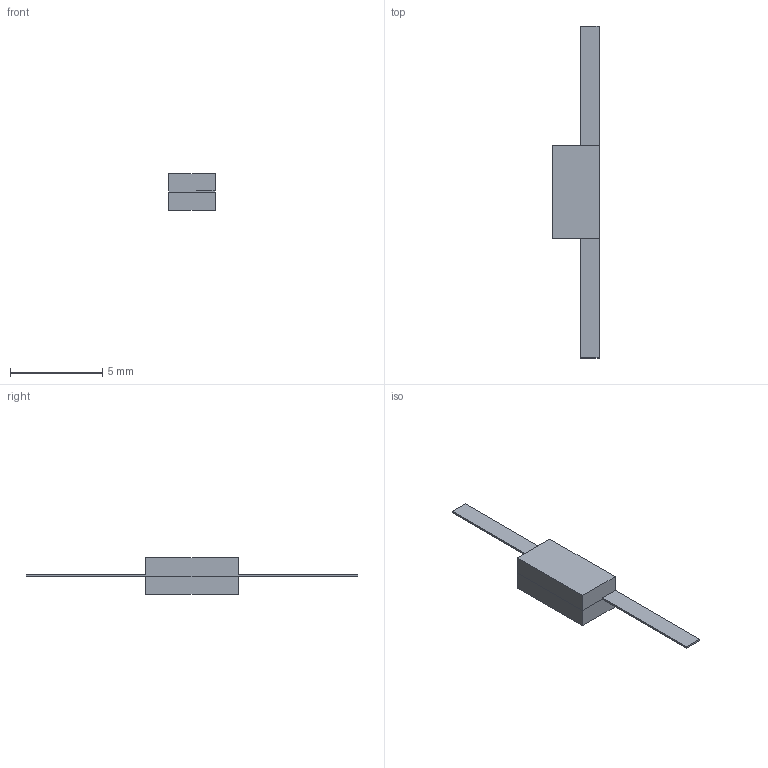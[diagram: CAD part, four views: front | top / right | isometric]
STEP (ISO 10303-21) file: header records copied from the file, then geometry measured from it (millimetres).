
FILE_DESCRIPTION(('STEP AP203'), '1');
FILE_NAME('ÏÐ1-22-10-2', '', ('UNSPECIFIED'), ('UNSPECIFIED'), 'C3D Converter', 'C3D Toolkit', '');
FILE_SCHEMA(('CONFIG_CONTROL_DESIGN'));
Length unit declared in the file: millimetre
Bounding box: 2.5 x 18 x 2 mm (x, y, z)
Volume: 26.3 mm3; surface area: 109 mm2
Topology: 4 solids, 4 shells, 24 faces, 50 edges, 34 vertices
Faces by surface type: plane 24
Entity records: 867 total; most frequent: CARTESIAN_POINT 105, DIRECTION 100, ORIENTED_EDGE 100, EDGE_CURVE 50, LINE 50, VECTOR 50, VERTEX_POINT 30, COLOUR_RGB 28
